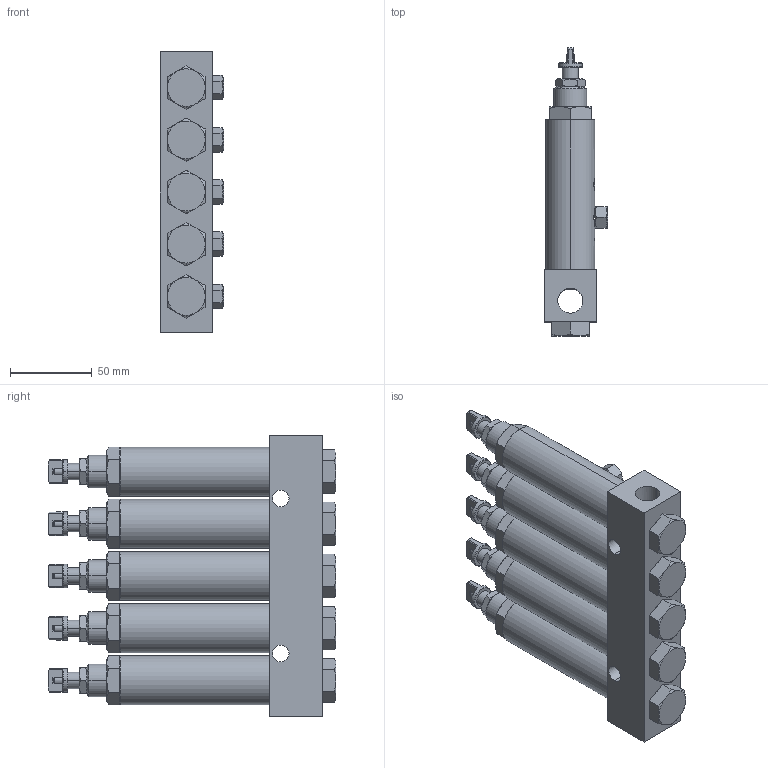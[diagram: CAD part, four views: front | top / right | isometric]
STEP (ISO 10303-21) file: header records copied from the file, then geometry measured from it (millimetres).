
FILE_DESCRIPTION (( 'STEP AP203' ), '1' );
FILE_NAME ('ASL-05.STEP', '2020-04-18T03:37:56', ( '个人用户' ), ( '微软中国' ), 'SwSTEP 2.0', 'SolidWorks 2018', '' );
FILE_SCHEMA (( 'CONFIG_CONTROL_DESIGN' ));
Length unit declared in the file: millimetre
Products named in the file (1): ASL-05
Bounding box: 39 x 176.5 x 172 mm (x, y, z)
Surface area: 101879.9 mm2 (no closed solid volume)
Topology: 0 solids, 54 shells, 555 faces, 1529 edges, 1019 vertices
Faces by surface type: plane 289, cone 160, cylinder 86, torus 10, sphere 10
Entity records: 20256 total; most frequent: CARTESIAN_POINT 6612, DIRECTION 2744, ORIENTED_EDGE 2670, EDGE_CURVE 1504, AXIS2_PLACEMENT_3D 1028, VERTEX_POINT 1004, VECTOR 688, LINE 688
